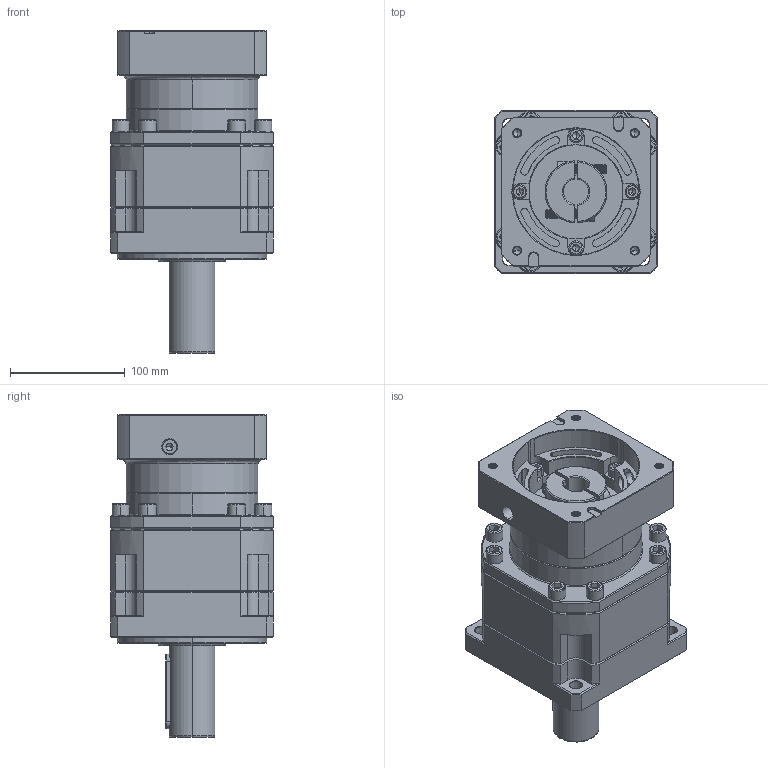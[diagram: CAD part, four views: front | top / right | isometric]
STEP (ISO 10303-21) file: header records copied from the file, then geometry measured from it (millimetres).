
FILE_DESCRIPTION (( 'STEP AP214' ), '1' );
FILE_NAME ('ZB142A-D40-L2-P2-22-110-145-M8.step', '2023-09-02T02:50:01', ( '' ), ( '' ), 'SwSTEP 2.0', 'SolidWorks 2016', '' );
FILE_SCHEMA (( 'AUTOMOTIVE_DESIGN' ));
Length unit declared in the file: millimetre
Products named in the file (1): ZB142A-D40-L2-P2-22-110-145-M8
Bounding box: 142 x 142 x 281.2 mm (x, y, z)
Volume: 2953320.6 mm3; surface area: 255388.3 mm2
Topology: 6 solids, 6 shells, 2600 faces, 6839 edges, 4359 vertices
Faces by surface type: plane 1231, cylinder 517, bspline 407, cone 389, torus 56
Entity records: 139184 total; most frequent: CARTESIAN_POINT 49753, ORIENTED_EDGE 13570, DIRECTION 11124, EDGE_CURVE 6785, VERTEX_POINT 4359, VECTOR 4288, LINE 4288, AXIS2_PLACEMENT_3D 3418
